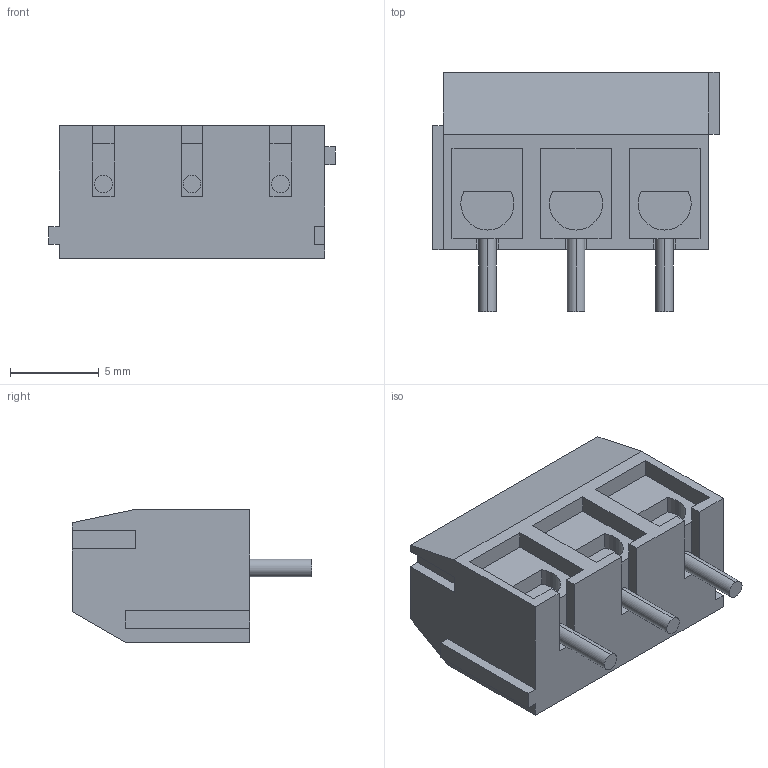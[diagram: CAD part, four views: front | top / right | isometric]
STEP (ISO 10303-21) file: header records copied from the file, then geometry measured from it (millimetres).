
FILE_DESCRIPTION((''),'2;1');
FILE_NAME('C-1776244-3','2012-06-13T',('workeradm'),('Tyco Electronics Ltd.'),'PRO/ENGINEER BY PARAMETRIC TECHNOLOGY CORPORATION, 2010430','PRO/ENGINEER BY PARAMETRIC TECHNOLOGY CORPORATION, 2010430','');
FILE_SCHEMA(('AUTOMOTIVE_DESIGN { 1 0 10303 214 1 1 1 1 }'));
Length unit declared in the file: millimetre
Products named in the file (1): C-1776244-3
Bounding box: 16.16 x 13.5 x 7.5 mm (x, y, z)
Volume: 970.5 mm3; surface area: 848.8 mm2
Topology: 1 solids, 1 shells, 126 faces, 330 edges, 218 vertices
Faces by surface type: plane 99, cylinder 21, sphere 6
Entity records: 4147 total; most frequent: CARTESIAN_POINT 676, DIRECTION 666, ORIENTED_EDGE 660, EDGE_CURVE 330, VECTOR 246, LINE 246, VERTEX_POINT 218, AXIS2_PLACEMENT_3D 210
